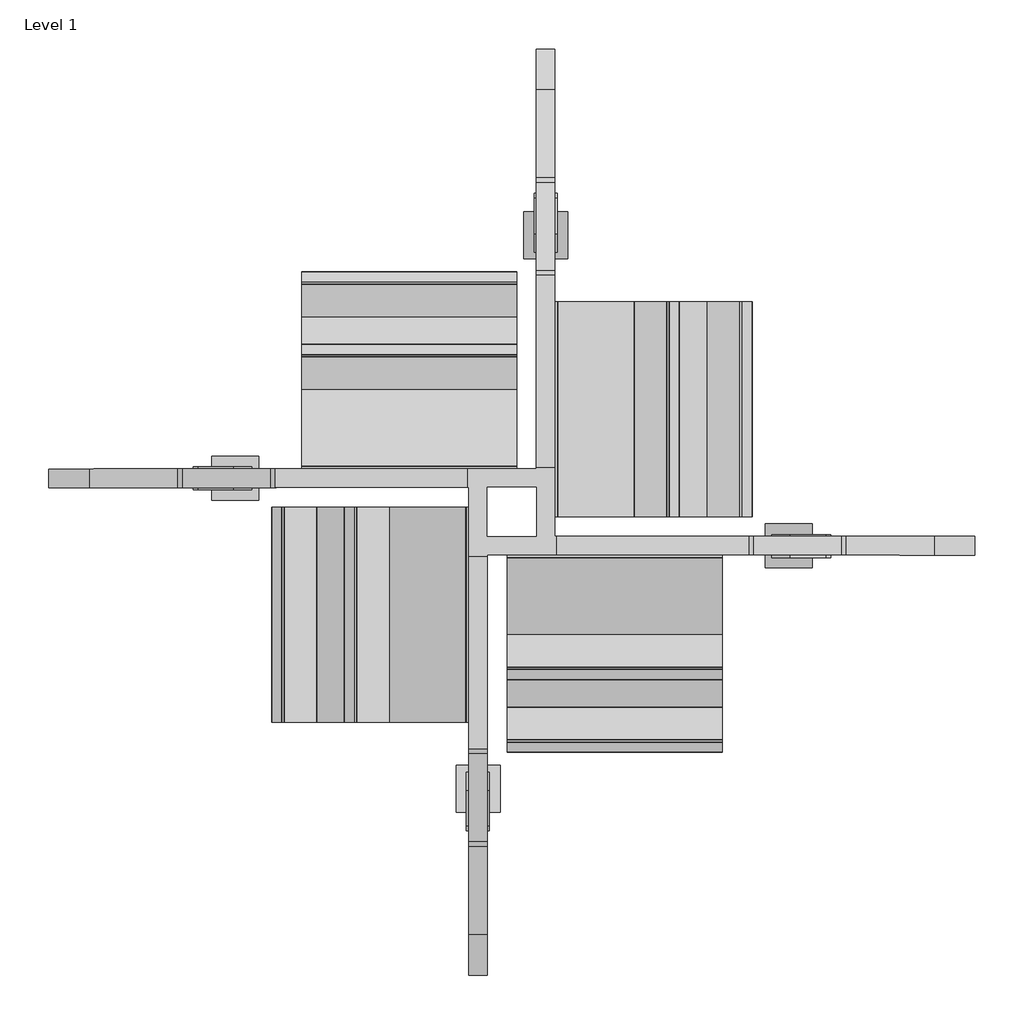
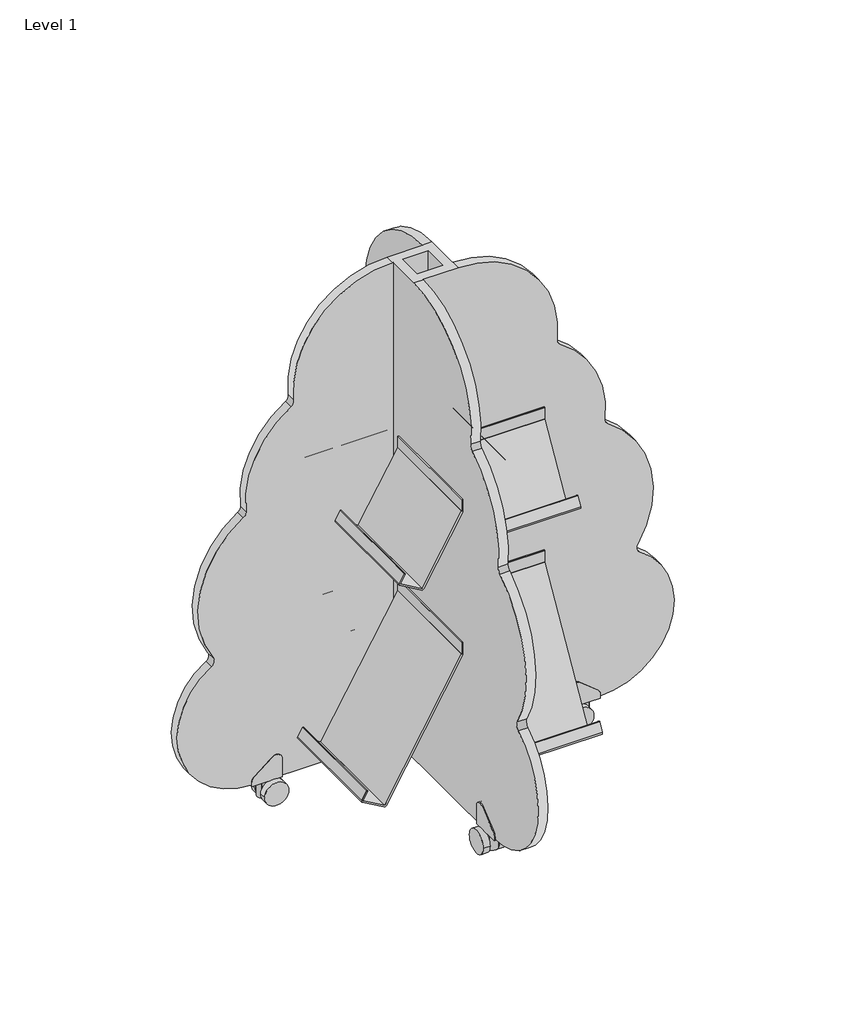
# One storey: 1 furniture element.
"""IFC4 building model written with IfcOpenShell, lengths in millimetres."""

from ifc_helpers import new_model, si_unit, origin, place, context, project, spatial, transform, mapped, element, save
from components import bk_library_bush_bk_library_bush_ce68fd2c, bk_library_bush_bk_library_bush_e0a5e469

model = new_model("IFC4")

# Units and contexts
model_context = context("Model", 3, world=origin())
ifc_project = project(units=[si_unit("LENGTHUNIT", "METRE", prefix="MILLI")], contexts=[model_context])

# Site, building, storey
site = spatial("IfcSite", under=ifc_project)
building = spatial("IfcBuilding", under=site)
storey = spatial("IfcBuildingStorey", under=building, Name="Level 1", Elevation=0.0)

# Furniture
placement = place(None, origin())
bk_library_bush_bk_library_bush_shape = bk_library_bush_bk_library_bush_ce68fd2c(model_context)
bk_library_bush_bk_library_bush_2_shape = bk_library_bush_bk_library_bush_e0a5e469(model_context)
element("IfcFurniture", 1, ObjectType="BK Library - Bush : BK Library - Bush", at=placement, inside=storey, context=model_context, shape_type="MappedRepresentation", body=[
    mapped(bk_library_bush_bk_library_bush_shape, transform((-3488.9176536, 2197.9079464, 0.0), x_axis=(1.0, 0.0, 0.0), y_axis=(0.0, 1.0, 0.0), z_axis=(0.0, 0.0, 1.0))),
    mapped(bk_library_bush_bk_library_bush_2_shape, transform((-3488.9176536, 2197.9079464, 0.0), x_axis=(1.0, 0.0, 0.0), y_axis=(0.0, 1.0, 0.0), z_axis=(0.0, 0.0, 1.0))),
])

save(model, "model.ifc")
